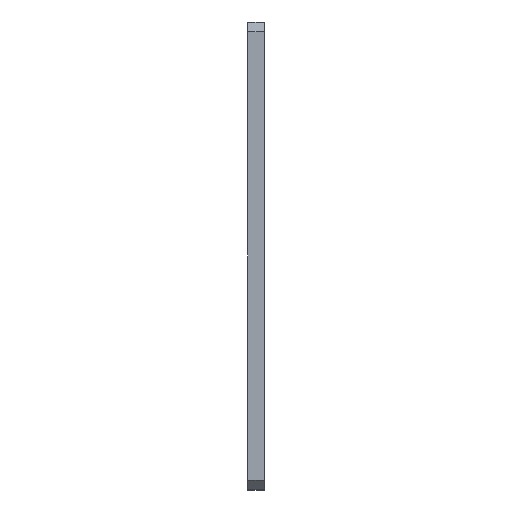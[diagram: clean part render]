
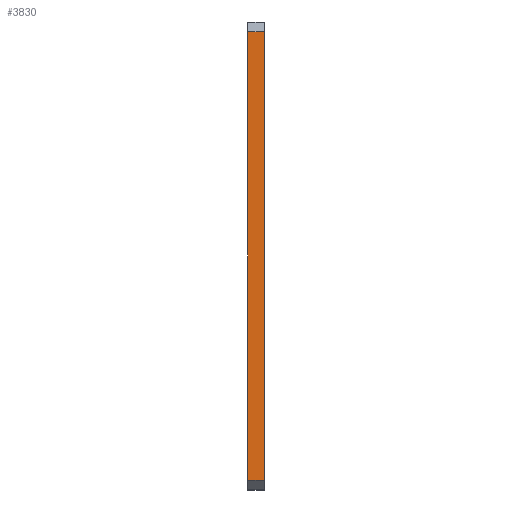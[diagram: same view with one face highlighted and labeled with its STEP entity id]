
A CAD part, left-side view. The second image highlights one B-rep face of the part: STEP entity #3830.
In plain terms, the highlighted planar face has unit normal (-1, 0, 0).
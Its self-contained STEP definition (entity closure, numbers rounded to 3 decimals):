
#217 = ORIENTED_EDGE ( 'NONE', *, *, #3538, .T. ) ;
#236 = CARTESIAN_POINT ( 'NONE',  ( -50.8, 0., -50.8 ) ) ;
#453 = CARTESIAN_POINT ( 'NONE',  ( -50.8, 0., 93.2 ) ) ;
#700 = ORIENTED_EDGE ( 'NONE', *, *, #4179, .F. ) ;
#715 = VECTOR ( 'NONE', #4218, 1000. ) ;
#789 = CARTESIAN_POINT ( 'NONE',  ( -50.8, 5.08, -47.8 ) ) ;
#880 = LINE ( 'NONE', #2200, #2920 ) ;
#1197 = FACE_OUTER_BOUND ( 'NONE', #1763, .T. ) ;
#1220 = DIRECTION ( 'NONE',  ( 0., 0., -1. ) ) ;
#1233 = DIRECTION ( 'NONE',  ( 0., -1., 0. ) ) ;
#1519 = EDGE_CURVE ( 'NONE', #3298, #3396, #880, .T. ) ;
#1523 = CARTESIAN_POINT ( 'NONE',  ( -50.8, 5.08, 93.2 ) ) ;
#1534 = ORIENTED_EDGE ( 'NONE', *, *, #4202, .T. ) ;
#1620 = AXIS2_PLACEMENT_3D ( 'NONE', #4190, #4122, #1220 ) ;
#1763 = EDGE_LOOP ( 'NONE', ( #700, #1930, #217, #1534 ) ) ;
#1930 = ORIENTED_EDGE ( 'NONE', *, *, #1519, .T. ) ;
#2180 = DIRECTION ( 'NONE',  ( 0., 0., 1. ) ) ;
#2200 = CARTESIAN_POINT ( 'NONE',  ( -50.8, 5.08, -47.8 ) ) ;
#2217 = LINE ( 'NONE', #1523, #715 ) ;
#2514 = PLANE ( 'NONE',  #1620 ) ;
#2599 = CARTESIAN_POINT ( 'NONE',  ( -50.8, 0., -47.8 ) ) ;
#2631 = VERTEX_POINT ( 'NONE', #453 ) ;
#2727 = VECTOR ( 'NONE', #4265, 1000. ) ;
#2765 = VERTEX_POINT ( 'NONE', #4243 ) ;
#2852 = LINE ( 'NONE', #4198, #2727 ) ;
#2920 = VECTOR ( 'NONE', #1233, 1000. ) ;
#2938 = VECTOR ( 'NONE', #2180, 1000. ) ;
#3298 = VERTEX_POINT ( 'NONE', #789 ) ;
#3396 = VERTEX_POINT ( 'NONE', #2599 ) ;
#3538 = EDGE_CURVE ( 'NONE', #3396, #2631, #3916, .T. ) ;
#3830 = ADVANCED_FACE ( 'NONE', ( #1197 ), #2514, .F. ) ;
#3916 = LINE ( 'NONE', #236, #2938 ) ;
#4122 = DIRECTION ( 'NONE',  ( 1., 0., 0. ) ) ;
#4179 = EDGE_CURVE ( 'NONE', #3298, #2765, #2852, .T. ) ;
#4190 = CARTESIAN_POINT ( 'NONE',  ( -50.8, 5.08, -50.8 ) ) ;
#4198 = CARTESIAN_POINT ( 'NONE',  ( -50.8, 5.08, -50.8 ) ) ;
#4202 = EDGE_CURVE ( 'NONE', #2631, #2765, #2217, .T. ) ;
#4218 = DIRECTION ( 'NONE',  ( 0., 1., 0. ) ) ;
#4243 = CARTESIAN_POINT ( 'NONE',  ( -50.8, 5.08, 93.2 ) ) ;
#4265 = DIRECTION ( 'NONE',  ( 0., 0., 1. ) ) ;
